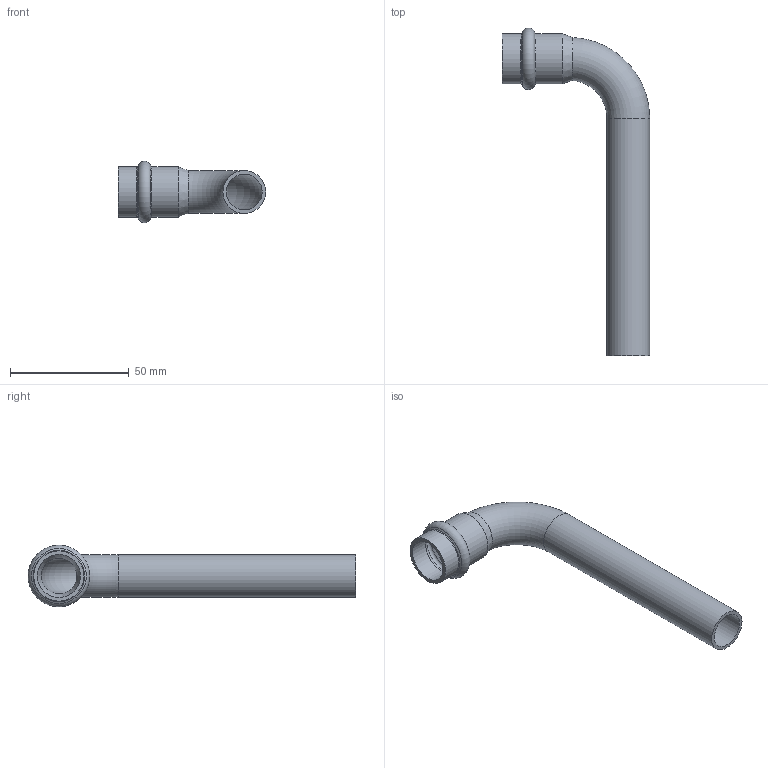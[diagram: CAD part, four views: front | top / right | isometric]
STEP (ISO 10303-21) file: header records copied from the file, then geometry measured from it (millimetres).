
FILE_DESCRIPTION((''),'2;1');
FILE_NAME('G:\Nirosan-Schmiedefeld\Technics\CAD\Bauteile VA\018\69001L18(2).stp','2011-10-26T13:30:52',('herberg'),(''),'Autodesk Inventor 2009','Autodesk Inventor 2009','');
FILE_SCHEMA(('AUTOMOTIVE_DESIGN { 1 0 10303 214 1 1 1 1 }'));
Length unit declared in the file: millimetre
Products named in the file (1): 69001L18(2)
Bounding box: 62 x 137.94 x 25.89 mm (x, y, z)
Volume: 13731.5 mm3; surface area: 18478.9 mm2
Topology: 1 solids, 1 shells, 20 faces, 41 edges, 23 vertices
Faces by surface type: cylinder 6, cone 4, torus 4, bspline 4, plane 2
Full cylindrical faces by diameter (mm): 15 x1, 18 x1, 18.15 x2, 21.15 x2
Entity records: 658 total; most frequent: CARTESIAN_POINT 307, DIRECTION 70, ORIENTED_EDGE 40, EDGE_LOOP 40, AXIS2_PLACEMENT_3D 35, VERTEX_POINT 20, EDGE_CURVE 20, FACE_OUTER_BOUND 20
